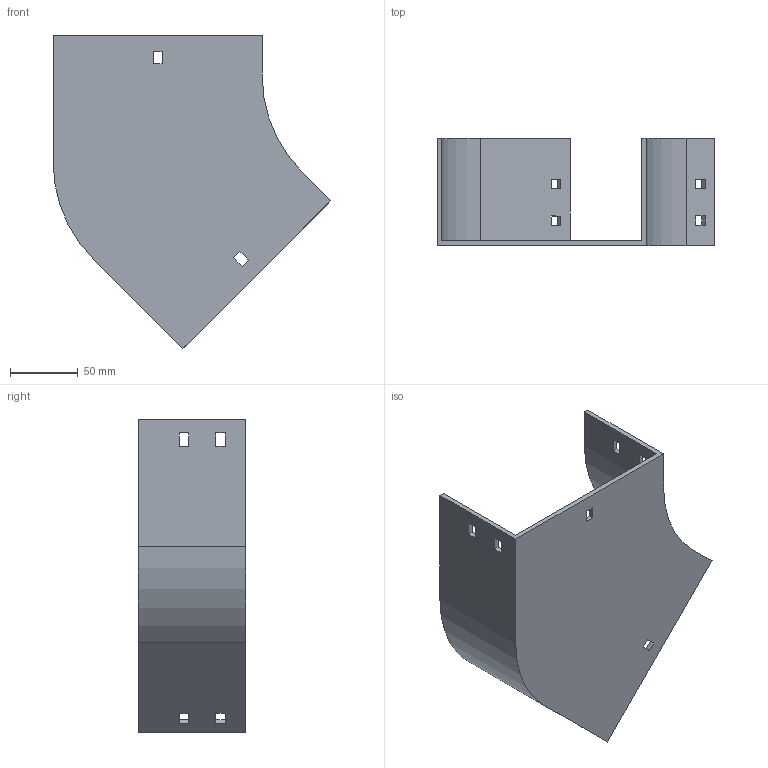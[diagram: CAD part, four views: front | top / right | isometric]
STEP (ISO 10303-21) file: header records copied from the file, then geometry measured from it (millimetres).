
FILE_DESCRIPTION (( 'STEP AP214' ), '1' );
FILE_NAME ('11F1C150.step', '2025-02-21T12:56:00', ( '' ), ( '' ), 'SwSTEP 2.0', 'SolidWorks 2023', '' );
FILE_SCHEMA (( 'AUTOMOTIVE_DESIGN' ));
Length unit declared in the file: millimetre
Products named in the file (1): 11F1C150
Bounding box: 204.5 x 79 x 230.82 mm (x, y, z)
Volume: 215935.7 mm3; surface area: 128112.1 mm2
Topology: 1 solids, 1 shells, 58 faces, 168 edges, 112 vertices
Faces by surface type: plane 54, cylinder 4
Entity records: 1943 total; most frequent: CARTESIAN_POINT 339, ORIENTED_EDGE 336, DIRECTION 294, EDGE_CURVE 168, LINE 160, VECTOR 160, VERTEX_POINT 112, EDGE_LOOP 78
